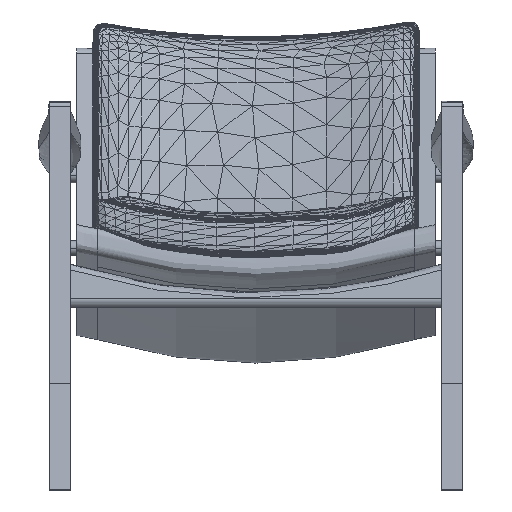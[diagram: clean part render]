
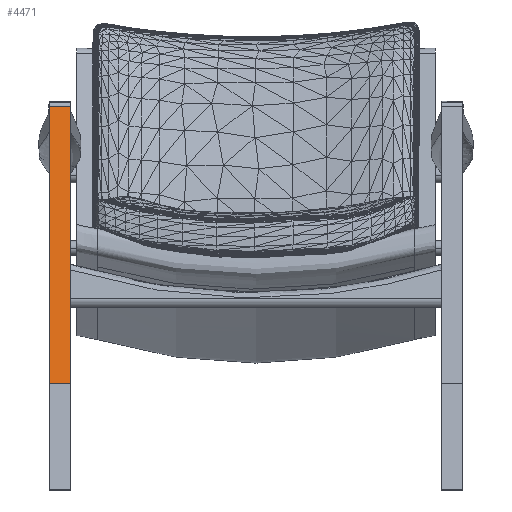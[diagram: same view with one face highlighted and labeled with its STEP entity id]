
A CAD part, front view. The second image highlights one B-rep face of the part: STEP entity #4471.
In plain terms, the highlighted free-form (B-spline) face has degree [2, 1] with [5, 2] control points.
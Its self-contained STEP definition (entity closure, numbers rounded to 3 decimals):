
#149=(
BOUNDED_CURVE()
B_SPLINE_CURVE(1,(#142235,#142236),.UNSPECIFIED.,.F.,.F.)
B_SPLINE_CURVE_WITH_KNOTS((2,2),(3445.726,4074.874),
 .UNSPECIFIED.)
CURVE()
GEOMETRIC_REPRESENTATION_ITEM()
RATIONAL_B_SPLINE_CURVE((1.,1.))
REPRESENTATION_ITEM('')
);
#150=(
BOUNDED_CURVE()
B_SPLINE_CURVE(1,(#142380,#142381),.UNSPECIFIED.,.F.,.F.)
B_SPLINE_CURVE_WITH_KNOTS((2,2),(3445.726,4074.874),
 .UNSPECIFIED.)
CURVE()
GEOMETRIC_REPRESENTATION_ITEM()
RATIONAL_B_SPLINE_CURVE((1.,1.))
REPRESENTATION_ITEM('')
);
#224=(
BOUNDED_SURFACE()
B_SPLINE_SURFACE(2,1,((#125520,#125521),(#125522,#125523),(#125524,#125525),
(#125526,#125527),(#125528,#125529)),.UNSPECIFIED.,.F.,.F.,.F.)
B_SPLINE_SURFACE_WITH_KNOTS((3,2,3),(2,2),(-4166.371,-4159.138,
-3445.726),(0.,70.),.UNSPECIFIED.)
GEOMETRIC_REPRESENTATION_ITEM()
RATIONAL_B_SPLINE_SURFACE(((1.,1.),(0.935,0.935),
(1.,1.),(1.,1.),(1.,1.)))
REPRESENTATION_ITEM('')
SURFACE()
);
#4471=ADVANCED_FACE('',(#12877),#224,.T.);
#12877=FACE_OUTER_BOUND('',#21289,.T.);
#21289=EDGE_LOOP('',(#38181,#38182,#38183,#38184));
#38181=ORIENTED_EDGE('',*,*,#57406,.T.);
#38182=ORIENTED_EDGE('',*,*,#57370,.F.);
#38183=ORIENTED_EDGE('',*,*,#57407,.T.);
#38184=ORIENTED_EDGE('',*,*,#57398,.T.);
#57370=EDGE_CURVE('',#78707,#78704,#149,.T.);
#57398=EDGE_CURVE('',#78717,#78715,#150,.T.);
#57406=EDGE_CURVE('',#78715,#78704,#70153,.T.);
#57407=EDGE_CURVE('',#78707,#78717,#70154,.T.);
#70153=B_SPLINE_CURVE_WITH_KNOTS('',1,(#142416,#142417),.UNSPECIFIED.,.F.,
 .F.,(2,2),(-35.,0.),.UNSPECIFIED.);
#70154=B_SPLINE_CURVE_WITH_KNOTS('',1,(#142418,#142419),.UNSPECIFIED.,.F.,
 .F.,(2,2),(0.,70.),.UNSPECIFIED.);
#78704=VERTEX_POINT('',#141504);
#78707=VERTEX_POINT('',#141507);
#78715=VERTEX_POINT('',#141515);
#78717=VERTEX_POINT('',#141517);
#125520=CARTESIAN_POINT('',(52.5,26.064,107.117));
#125521=CARTESIAN_POINT('',(17.5,26.064,107.117));
#125522=CARTESIAN_POINT('',(52.5,24.226,110.423));
#125523=CARTESIAN_POINT('',(17.5,24.226,110.423));
#125524=CARTESIAN_POINT('',(52.5,25.037,114.118));
#125525=CARTESIAN_POINT('',(17.5,25.037,114.118));
#125526=CARTESIAN_POINT('',(52.5,81.742,372.574));
#125527=CARTESIAN_POINT('',(17.5,81.742,372.574));
#125528=CARTESIAN_POINT('',(52.5,138.446,631.031));
#125529=CARTESIAN_POINT('',(17.5,138.446,631.031));
#141504=CARTESIAN_POINT('',(52.5,38.432,175.172));
#141507=CARTESIAN_POINT('',(52.5,138.446,631.031));
#141515=CARTESIAN_POINT('',(17.5,38.432,175.172));
#141517=CARTESIAN_POINT('',(17.5,138.446,631.031));
#142235=CARTESIAN_POINT('',(52.5,138.446,631.031));
#142236=CARTESIAN_POINT('',(52.5,38.432,175.172));
#142380=CARTESIAN_POINT('',(17.5,138.446,631.031));
#142381=CARTESIAN_POINT('',(17.5,38.432,175.172));
#142416=CARTESIAN_POINT('',(17.5,38.432,175.172));
#142417=CARTESIAN_POINT('',(52.5,38.432,175.172));
#142418=CARTESIAN_POINT('',(52.5,138.446,631.031));
#142419=CARTESIAN_POINT('',(17.5,138.446,631.031));
